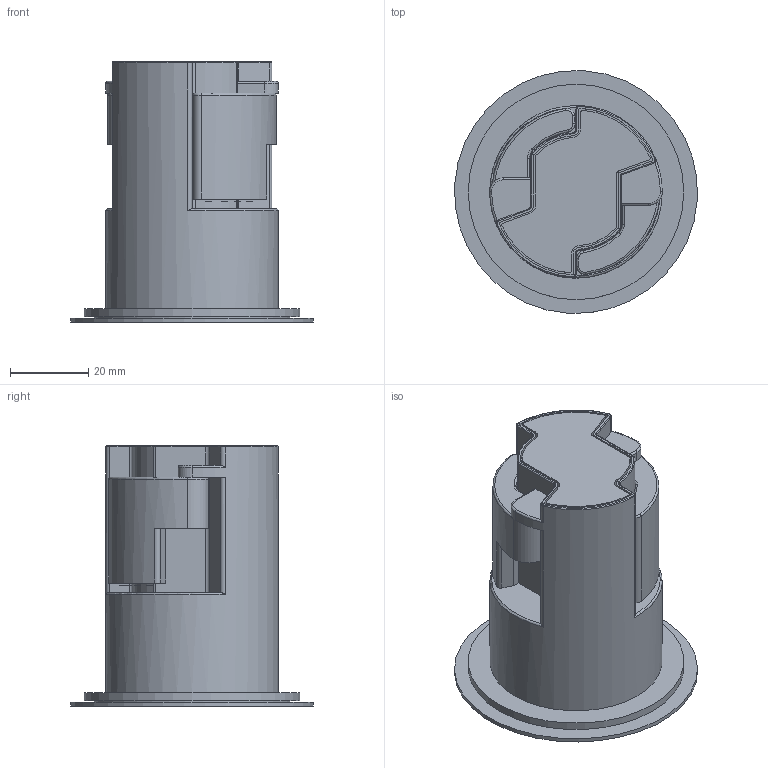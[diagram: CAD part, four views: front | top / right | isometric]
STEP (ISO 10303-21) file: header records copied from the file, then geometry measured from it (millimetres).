
FILE_DESCRIPTION(/* description */ (''),/* implementation_level */ '2;1');
FILE_NAME(/* name */ 'RCESSED FIXING KIT.stp',/* time_stamp */ '2023-12-01T14:41:23+01:00',/* author */ ('n.bisotti'),/* organization */ (''),/* preprocessor_version */ 'ST-DEVELOPER v19.2',/* originating_system */ 'Autodesk Inventor 2023',/* authorisation */ '');
FILE_SCHEMA (('AUTOMOTIVE_DESIGN { 1 0 10303 214 3 1 1 }'));
Length unit declared in the file: centimetre
Products named in the file (1): RCESSED FIXING KIT
Bounding box: 61.86 x 61.86 x 66.4 mm (x, y, z)
Volume: 42768.8 mm3; surface area: 39222.1 mm2
Topology: 8 solids, 8 shells, 264 faces, 635 edges, 404 vertices
Faces by surface type: cylinder 111, plane 95, torus 38, cone 20
Full cylindrical faces by diameter (mm): 2 x1, 2.55 x4, 2.75 x4, 4.2 x2, 5.5 x2, 7 x2, 38 x1, 44 x1, 50 x1, 52 x1, 55 x1, 62 x1
Entity records: 8172 total; most frequent: DIRECTION 1483, CARTESIAN_POINT 1404, ORIENTED_EDGE 1266, EDGE_CURVE 633, AXIS2_PLACEMENT_3D 603, VERTEX_POINT 404, CIRCLE 334, EDGE_LOOP 289
